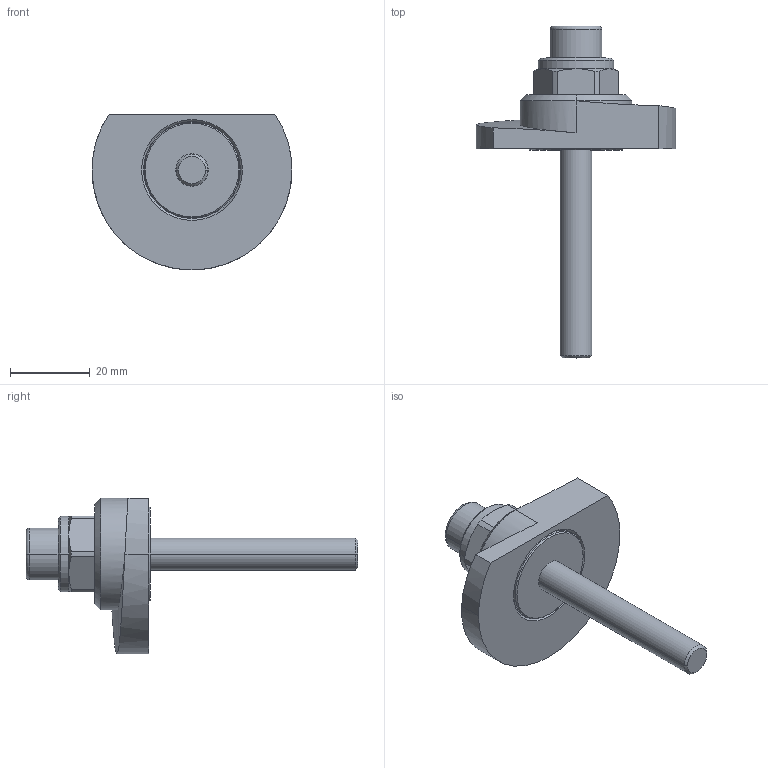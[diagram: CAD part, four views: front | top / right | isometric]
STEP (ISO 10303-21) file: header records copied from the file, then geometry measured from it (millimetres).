
FILE_DESCRIPTION (( 'STEP AP214' ), '1' );
FILE_NAME ('918.1-50-SKS-L-52.step', '2024-05-15T13:02:57', ( '' ), ( '' ), 'SwSTEP 2.0', 'SolidWorks 2022', '' );
FILE_SCHEMA (( 'AUTOMOTIVE_DESIGN' ));
Length unit declared in the file: millimetre
Products named in the file (1): 918.1-50-SKS-L-52
Bounding box: 50 x 83 x 39 mm (x, y, z)
Volume: 22715.8 mm3; surface area: 9635.5 mm2
Topology: 1 solids, 2 shells, 77 faces, 174 edges, 109 vertices
Faces by surface type: cylinder 25, plane 25, cone 22, bspline 3, torus 2
Entity records: 2537 total; most frequent: CARTESIAN_POINT 767, DIRECTION 379, ORIENTED_EDGE 348, EDGE_CURVE 174, AXIS2_PLACEMENT_3D 152, VERTEX_POINT 109, EDGE_LOOP 87, CIRCLE 77
